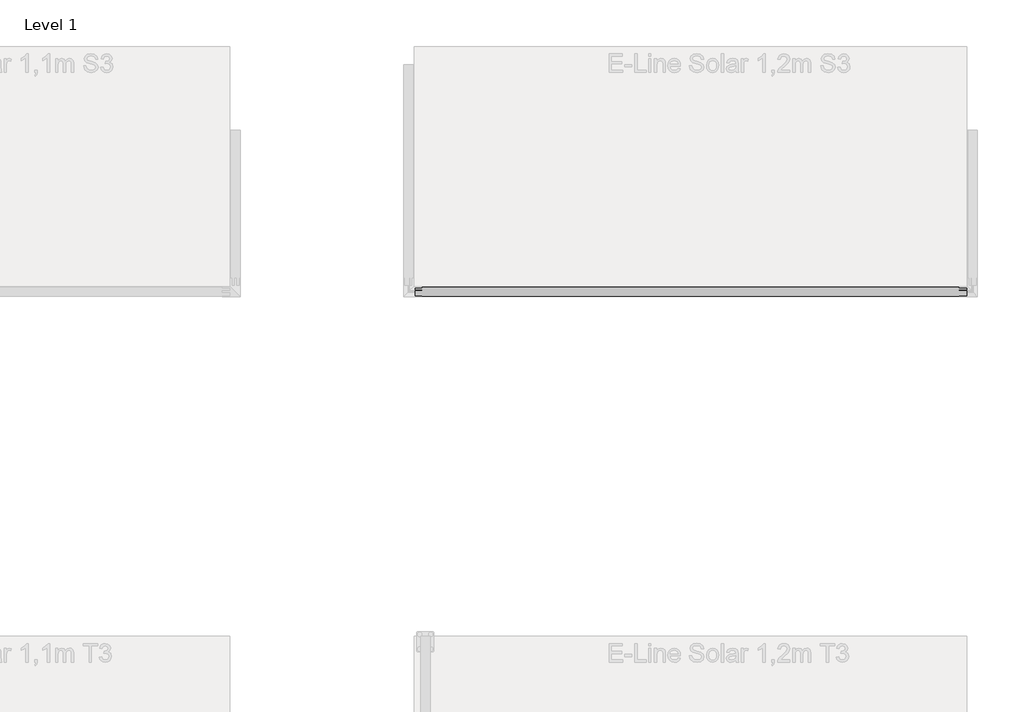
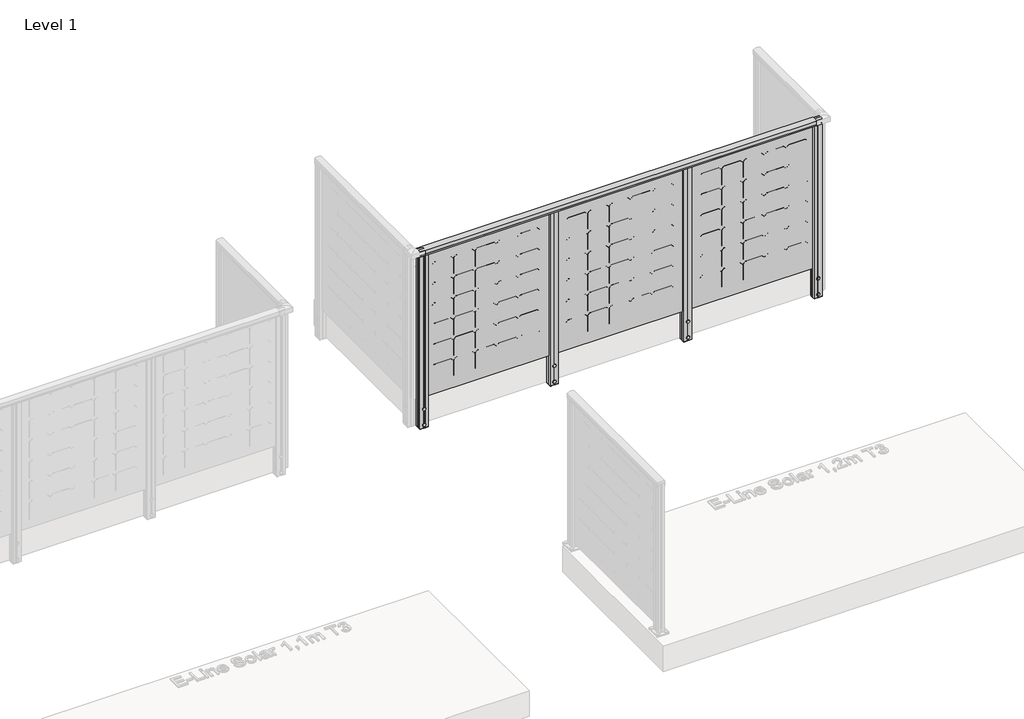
# One storey, part 42 of 66: 1 railing.
"""IFC4 building model written with IfcOpenShell, lengths in millimetres."""

from ifc_helpers import new_model, si_unit, point, frame, frame_2d, origin, place, context, project, spatial, polyline, circle_curve, trimmed, segment, composite_curve, outline, extrude, element, save

model = new_model("IFC4")

# Units and contexts
model_context = context("Model", 3, world=origin())
ifc_project = project(units=[si_unit("LENGTHUNIT", "METRE", prefix="MILLI")], contexts=[model_context])

# Site, building, storey
site = spatial("IfcSite", under=ifc_project)
building = spatial("IfcBuilding", under=site)
storey = spatial("IfcBuildingStorey", under=building, Name="Level 1", Elevation=0.0)

# Railing
placement = place(None, origin())
element("IfcRailing", 1, ObjectType="E-Line Solar 1,2m S3 5 columns of solar elements", at=placement, inside=storey, context=model_context, shape_type="SweptSolid", body=[
    extrude(outline(composite_curve([segment(polyline([(213.4211819, 1194.1390059), (213.4211819, 1167.1990555), (212.8063989, 1166.5842725), (213.4211819, 1165.9694895), (213.4211819, 1157.2498847), (211.6613734, 1157.2498847), (211.6613734, 1180.4998829), (164.6663272, 1180.4998829), (164.6663272, 1157.2498847), (162.8613743, 1157.2498847), (162.8613743, 1165.8194895), (163.4834554, 1166.4415706), (162.9015237, 1167.0235023), (162.9015237, 1194.1342258)]), True, "CONTINUOUS"), segment(trimmed(circle_curve(frame_2d((188.1662216, 1142.6785502)), 57.3235687), [point((162.9015237, 1194.1342258))], [point((213.4211819, 1194.1390059))], False, "CARTESIAN"), True, "CONTINUOUS")], self_intersect=False)), frame((23301.5263105, 0.0, 0.0), z_axis=(1.0, 0.0, 0.0), x_axis=(0.0, 1.0, 0.0)), (0.0, 0.0, 1.0), 2995.0),
    extrude(outline(polyline([(23301.5263105, 184.5015979), (23301.5263105, 193.2615979), (26296.5263105, 193.2615979), (26296.5263105, 184.5015979), (23301.5263105, 184.5015979)])), frame((0.0, 0.0, 28.0), z_axis=(0.0, 0.0, 1.0), x_axis=(1.0, 0.0, 0.0)), (0.0, 0.0, 1.0), 1152.0),
    extrude(outline(polyline([(0.0, 0.0), (-16.036927, 16.036927), (-16.036927, 139.963073), (0.0, 156.0), (123.9261459, 156.0), (139.963073, 139.963073), (139.963073, 16.036927), (123.9261459, 0.0), (0.0, 0.0)])), frame((25552.5263105, 184.3815979, 1049.4156895), z_axis=(7.733303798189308e-12, 1.0, 0.0), x_axis=(0.0, 0.0, -1.0)), (0.0, 0.0, 1.0), 1.0),
    extrude(outline(polyline([(0.0, 0.0), (-16.036927, 16.036927), (-16.036927, 139.963073), (0.0, 156.0), (123.9261459, 156.0), (139.963073, 139.963073), (139.963073, 16.036927), (123.9261459, 0.0), (0.0, 0.0)])), frame((25713.5263105, 184.3815979, 1049.4156895), z_axis=(7.733303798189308e-12, 1.0, 0.0), x_axis=(0.0, 0.0, -1.0)), (0.0, 0.0, 1.0), 1.0),
    extrude(outline(polyline([(0.0, 0.0), (-16.036927, 16.036927), (-16.036927, 139.963073), (0.0, 156.0), (123.9261459, 156.0), (139.963073, 139.963073), (139.963073, 16.036927), (123.9261459, 0.0), (0.0, 0.0)])), frame((26196.5263105, 184.3815979, 1049.4156895), z_axis=(7.733303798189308e-12, 1.0, 0.0), x_axis=(0.0, 0.0, -1.0)), (0.0, 0.0, 1.0), 1.0),
    extrude(outline(polyline([(0.0, 0.0), (-16.036927, 16.036927), (-16.036927, 139.963073), (0.0, 156.0), (123.9261459, 156.0), (139.963073, 139.963073), (139.963073, 16.036927), (123.9261459, 0.0), (0.0, 0.0)])), frame((26035.5263105, 184.3815979, 1049.4156895), z_axis=(7.733303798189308e-12, 1.0, 0.0), x_axis=(0.0, 0.0, -1.0)), (0.0, 0.0, 1.0), 1.0),
    extrude(outline(polyline([(0.0, 0.0), (-16.036927, 16.036927), (-16.036927, 139.963073), (0.0, 156.0), (123.9261459, 156.0), (139.963073, 139.963073), (139.963073, 16.036927), (123.9261459, 0.0), (0.0, 0.0)])), frame((25874.5263105, 184.3815979, 1049.4156895), z_axis=(7.733303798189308e-12, 1.0, 0.0), x_axis=(0.0, 0.0, -1.0)), (0.0, 0.0, 1.0), 1.0),
    extrude(outline(polyline([(0.0, 0.0), (-16.036927, 16.036927), (-16.036927, 139.963073), (0.0, 156.0), (123.9261459, 156.0), (139.963073, 139.963073), (139.963073, 16.036927), (123.9261459, 0.0), (0.0, 0.0)])), frame((25552.5263105, 184.3815979, 888.4156895), z_axis=(7.733303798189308e-12, 1.0, 0.0), x_axis=(0.0, 0.0, -1.0)), (0.0, 0.0, 1.0), 1.0),
    extrude(outline(polyline([(0.0, 0.0), (-16.036927, 16.036927), (-16.036927, 139.963073), (0.0, 156.0), (123.9261459, 156.0), (139.963073, 139.963073), (139.963073, 16.036927), (123.9261459, 0.0), (0.0, 0.0)])), frame((25552.5263105, 184.3815979, 727.4156895), z_axis=(7.733303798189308e-12, 1.0, 0.0), x_axis=(0.0, 0.0, -1.0)), (0.0, 0.0, 1.0), 1.0),
    extrude(outline(polyline([(0.0, 0.0), (-16.036927, 16.036927), (-16.036927, 139.963073), (0.0, 156.0), (123.9261459, 156.0), (139.963073, 139.963073), (139.963073, 16.036927), (123.9261459, 0.0), (0.0, 0.0)])), frame((25552.5263105, 184.3815979, 566.4156895), z_axis=(7.733303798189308e-12, 1.0, 0.0), x_axis=(0.0, 0.0, -1.0)), (0.0, 0.0, 1.0), 1.0),
    extrude(outline(polyline([(0.0, 0.0), (-16.036927, 16.036927), (-16.036927, 139.963073), (0.0, 156.0), (123.9261459, 156.0), (139.963073, 139.963073), (139.963073, 16.036927), (123.9261459, 0.0), (0.0, 0.0)])), frame((25552.5263105, 184.3815979, 405.4156895), z_axis=(7.733303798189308e-12, 1.0, 0.0), x_axis=(0.0, 0.0, -1.0)), (0.0, 0.0, 1.0), 1.0),
    extrude(outline(polyline([(0.0, 0.0), (-16.036927, 16.036927), (-16.036927, 139.963073), (0.0, 156.0), (123.9261459, 156.0), (139.963073, 139.963073), (139.963073, 16.036927), (123.9261459, 0.0), (0.0, 0.0)])), frame((25552.5263105, 184.3815979, 244.4156895), z_axis=(7.733303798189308e-12, 1.0, 0.0), x_axis=(0.0, 0.0, -1.0)), (0.0, 0.0, 1.0), 1.0),
    extrude(outline(polyline([(0.0, 0.0), (-16.036927, 16.036927), (-16.036927, 139.963073), (0.0, 156.0), (123.9261459, 156.0), (139.963073, 139.963073), (139.963073, 16.036927), (123.9261459, 0.0), (0.0, 0.0)])), frame((25713.5263105, 184.3815979, 888.4156895), z_axis=(7.733303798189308e-12, 1.0, 0.0), x_axis=(0.0, 0.0, -1.0)), (0.0, 0.0, 1.0), 1.0),
    extrude(outline(polyline([(0.0, 0.0), (-16.036927, 16.036927), (-16.036927, 139.963073), (0.0, 156.0), (123.9261459, 156.0), (139.963073, 139.963073), (139.963073, 16.036927), (123.9261459, 0.0), (0.0, 0.0)])), frame((25713.5263105, 184.3815979, 727.4156895), z_axis=(7.733303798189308e-12, 1.0, 0.0), x_axis=(0.0, 0.0, -1.0)), (0.0, 0.0, 1.0), 1.0),
    extrude(outline(polyline([(0.0, 0.0), (-16.036927, 16.036927), (-16.036927, 139.963073), (0.0, 156.0), (123.9261459, 156.0), (139.963073, 139.963073), (139.963073, 16.036927), (123.9261459, 0.0), (0.0, 0.0)])), frame((25713.5263105, 184.3815979, 566.4156895), z_axis=(7.733303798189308e-12, 1.0, 0.0), x_axis=(0.0, 0.0, -1.0)), (0.0, 0.0, 1.0), 1.0),
    extrude(outline(polyline([(0.0, 0.0), (-16.036927, 16.036927), (-16.036927, 139.963073), (0.0, 156.0), (123.9261459, 156.0), (139.963073, 139.963073), (139.963073, 16.036927), (123.9261459, 0.0), (0.0, 0.0)])), frame((25713.5263105, 184.3815979, 405.4156895), z_axis=(7.733303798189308e-12, 1.0, 0.0), x_axis=(0.0, 0.0, -1.0)), (0.0, 0.0, 1.0), 1.0),
    extrude(outline(polyline([(0.0, 0.0), (-16.036927, 16.036927), (-16.036927, 139.963073), (0.0, 156.0), (123.9261459, 156.0), (139.963073, 139.963073), (139.963073, 16.036927), (123.9261459, 0.0), (0.0, 0.0)])), frame((25713.5263105, 184.3815979, 244.4156895), z_axis=(7.733303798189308e-12, 1.0, 0.0), x_axis=(0.0, 0.0, -1.0)), (0.0, 0.0, 1.0), 1.0),
    extrude(outline(polyline([(0.0, 0.0), (-16.036927, 16.036927), (-16.036927, 139.963073), (0.0, 156.0), (123.9261459, 156.0), (139.963073, 139.963073), (139.963073, 16.036927), (123.9261459, 0.0), (0.0, 0.0)])), frame((26196.5263105, 184.3815979, 888.4156895), z_axis=(7.733303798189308e-12, 1.0, 0.0), x_axis=(0.0, 0.0, -1.0)), (0.0, 0.0, 1.0), 1.0),
    extrude(outline(polyline([(0.0, 0.0), (-16.036927, 16.036927), (-16.036927, 139.963073), (0.0, 156.0), (123.9261459, 156.0), (139.963073, 139.963073), (139.963073, 16.036927), (123.9261459, 0.0), (0.0, 0.0)])), frame((26196.5263105, 184.3815979, 727.4156895), z_axis=(7.733303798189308e-12, 1.0, 0.0), x_axis=(0.0, 0.0, -1.0)), (0.0, 0.0, 1.0), 1.0),
    extrude(outline(polyline([(0.0, 0.0), (-16.036927, 16.036927), (-16.036927, 139.963073), (0.0, 156.0), (123.9261459, 156.0), (139.963073, 139.963073), (139.963073, 16.036927), (123.9261459, 0.0), (0.0, 0.0)])), frame((26196.5263105, 184.3815979, 566.4156895), z_axis=(7.733303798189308e-12, 1.0, 0.0), x_axis=(0.0, 0.0, -1.0)), (0.0, 0.0, 1.0), 1.0),
    extrude(outline(polyline([(0.0, 0.0), (-16.036927, 16.036927), (-16.036927, 139.963073), (0.0, 156.0), (123.9261459, 156.0), (139.963073, 139.963073), (139.963073, 16.036927), (123.9261459, 0.0), (0.0, 0.0)])), frame((26196.5263105, 184.3815979, 405.4156895), z_axis=(7.733303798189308e-12, 1.0, 0.0), x_axis=(0.0, 0.0, -1.0)), (0.0, 0.0, 1.0), 1.0),
    extrude(outline(polyline([(0.0, 0.0), (-16.036927, 16.036927), (-16.036927, 139.963073), (0.0, 156.0), (123.9261459, 156.0), (139.963073, 139.963073), (139.963073, 16.036927), (123.9261459, 0.0), (0.0, 0.0)])), frame((26196.5263105, 184.3815979, 244.4156895), z_axis=(7.733303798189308e-12, 1.0, 0.0), x_axis=(0.0, 0.0, -1.0)), (0.0, 0.0, 1.0), 1.0),
    extrude(outline(polyline([(0.0, 0.0), (-16.036927, 16.036927), (-16.036927, 139.963073), (0.0, 156.0), (123.9261459, 156.0), (139.963073, 139.963073), (139.963073, 16.036927), (123.9261459, 0.0), (0.0, 0.0)])), frame((26035.5263105, 184.3815979, 888.4156895), z_axis=(7.733303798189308e-12, 1.0, 0.0), x_axis=(0.0, 0.0, -1.0)), (0.0, 0.0, 1.0), 1.0),
    extrude(outline(polyline([(0.0, 0.0), (-16.036927, 16.036927), (-16.036927, 139.963073), (0.0, 156.0), (123.9261459, 156.0), (139.963073, 139.963073), (139.963073, 16.036927), (123.9261459, 0.0), (0.0, 0.0)])), frame((26035.5263105, 184.3815979, 727.4156895), z_axis=(7.733303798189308e-12, 1.0, 0.0), x_axis=(0.0, 0.0, -1.0)), (0.0, 0.0, 1.0), 1.0),
    extrude(outline(polyline([(0.0, 0.0), (-16.036927, 16.036927), (-16.036927, 139.963073), (0.0, 156.0), (123.9261459, 156.0), (139.963073, 139.963073), (139.963073, 16.036927), (123.9261459, 0.0), (0.0, 0.0)])), frame((26035.5263105, 184.3815979, 566.4156895), z_axis=(7.733303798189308e-12, 1.0, 0.0), x_axis=(0.0, 0.0, -1.0)), (0.0, 0.0, 1.0), 1.0),
    extrude(outline(polyline([(0.0, 0.0), (-16.036927, 16.036927), (-16.036927, 139.963073), (0.0, 156.0), (123.9261459, 156.0), (139.963073, 139.963073), (139.963073, 16.036927), (123.9261459, 0.0), (0.0, 0.0)])), frame((26035.5263105, 184.3815979, 405.4156895), z_axis=(7.733303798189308e-12, 1.0, 0.0), x_axis=(0.0, 0.0, -1.0)), (0.0, 0.0, 1.0), 1.0),
    extrude(outline(polyline([(0.0, 0.0), (-16.036927, 16.036927), (-16.036927, 139.963073), (0.0, 156.0), (123.9261459, 156.0), (139.963073, 139.963073), (139.963073, 16.036927), (123.9261459, 0.0), (0.0, 0.0)])), frame((26035.5263105, 184.3815979, 244.4156895), z_axis=(7.733303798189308e-12, 1.0, 0.0), x_axis=(0.0, 0.0, -1.0)), (0.0, 0.0, 1.0), 1.0),
    extrude(outline(polyline([(0.0, 0.0), (-16.036927, 16.036927), (-16.036927, 139.963073), (0.0, 156.0), (123.9261459, 156.0), (139.963073, 139.963073), (139.963073, 16.036927), (123.9261459, 0.0), (0.0, 0.0)])), frame((25874.5263105, 184.3815979, 888.4156895), z_axis=(7.733303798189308e-12, 1.0, 0.0), x_axis=(0.0, 0.0, -1.0)), (0.0, 0.0, 1.0), 1.0),
    extrude(outline(polyline([(0.0, 0.0), (-16.036927, 16.036927), (-16.036927, 139.963073), (0.0, 156.0), (123.9261459, 156.0), (139.963073, 139.963073), (139.963073, 16.036927), (123.9261459, 0.0), (0.0, 0.0)])), frame((25874.5263105, 184.3815979, 727.4156895), z_axis=(7.733303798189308e-12, 1.0, 0.0), x_axis=(0.0, 0.0, -1.0)), (0.0, 0.0, 1.0), 1.0),
    extrude(outline(polyline([(0.0, 0.0), (-16.036927, 16.036927), (-16.036927, 139.963073), (0.0, 156.0), (123.9261459, 156.0), (139.963073, 139.963073), (139.963073, 16.036927), (123.9261459, 0.0), (0.0, 0.0)])), frame((25874.5263105, 184.3815979, 566.4156895), z_axis=(7.733303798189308e-12, 1.0, 0.0), x_axis=(0.0, 0.0, -1.0)), (0.0, 0.0, 1.0), 1.0),
    extrude(outline(polyline([(0.0, 0.0), (-16.036927, 16.036927), (-16.036927, 139.963073), (0.0, 156.0), (123.9261459, 156.0), (139.963073, 139.963073), (139.963073, 16.036927), (123.9261459, 0.0), (0.0, 0.0)])), frame((25874.5263105, 184.3815979, 405.4156895), z_axis=(7.733303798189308e-12, 1.0, 0.0), x_axis=(0.0, 0.0, -1.0)), (0.0, 0.0, 1.0), 1.0),
    extrude(outline(polyline([(0.0, 0.0), (-16.036927, 16.036927), (-16.036927, 139.963073), (0.0, 156.0), (123.9261459, 156.0), (139.963073, 139.963073), (139.963073, 16.036927), (123.9261459, 0.0), (0.0, 0.0)])), frame((25874.5263105, 184.3815979, 244.4156895), z_axis=(7.733303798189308e-12, 1.0, 0.0), x_axis=(0.0, 0.0, -1.0)), (0.0, 0.0, 1.0), 1.0),
    extrude(outline(polyline([(0.0, 0.0), (-16.036927, 16.036927), (-16.036927, 139.963073), (0.0, 156.0), (123.9261459, 156.0), (139.963073, 139.963073), (139.963073, 16.036927), (123.9261459, 0.0), (0.0, 0.0)])), frame((24555.0263105, 184.3815979, 1049.4156895), z_axis=(7.733303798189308e-12, 1.0, 0.0), x_axis=(0.0, 0.0, -1.0)), (0.0, 0.0, 1.0), 1.0),
    extrude(outline(polyline([(0.0, 0.0), (-16.036927, 16.036927), (-16.036927, 139.963073), (0.0, 156.0), (123.9261459, 156.0), (139.963073, 139.963073), (139.963073, 16.036927), (123.9261459, 0.0), (0.0, 0.0)])), frame((24716.0263105, 184.3815979, 1049.4156895), z_axis=(7.733303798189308e-12, 1.0, 0.0), x_axis=(0.0, 0.0, -1.0)), (0.0, 0.0, 1.0), 1.0),
    extrude(outline(polyline([(0.0, 0.0), (-16.036927, 16.036927), (-16.036927, 139.963073), (0.0, 156.0), (123.9261459, 156.0), (139.963073, 139.963073), (139.963073, 16.036927), (123.9261459, 0.0), (0.0, 0.0)])), frame((25199.0263105, 184.3815979, 1049.4156895), z_axis=(7.733303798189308e-12, 1.0, 0.0), x_axis=(0.0, 0.0, -1.0)), (0.0, 0.0, 1.0), 1.0),
    extrude(outline(polyline([(0.0, 0.0), (-16.036927, 16.036927), (-16.036927, 139.963073), (0.0, 156.0), (123.9261459, 156.0), (139.963073, 139.963073), (139.963073, 16.036927), (123.9261459, 0.0), (0.0, 0.0)])), frame((25038.0263105, 184.3815979, 1049.4156895), z_axis=(7.733303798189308e-12, 1.0, 0.0), x_axis=(0.0, 0.0, -1.0)), (0.0, 0.0, 1.0), 1.0),
    extrude(outline(polyline([(0.0, 0.0), (-16.036927, 16.036927), (-16.036927, 139.963073), (0.0, 156.0), (123.9261459, 156.0), (139.963073, 139.963073), (139.963073, 16.036927), (123.9261459, 0.0), (0.0, 0.0)])), frame((24877.0263105, 184.3815979, 1049.4156895), z_axis=(7.733303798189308e-12, 1.0, 0.0), x_axis=(0.0, 0.0, -1.0)), (0.0, 0.0, 1.0), 1.0),
    extrude(outline(polyline([(0.0, 0.0), (-16.036927, 16.036927), (-16.036927, 139.963073), (0.0, 156.0), (123.9261459, 156.0), (139.963073, 139.963073), (139.963073, 16.036927), (123.9261459, 0.0), (0.0, 0.0)])), frame((24555.0263105, 184.3815979, 888.4156895), z_axis=(7.733303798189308e-12, 1.0, 0.0), x_axis=(0.0, 0.0, -1.0)), (0.0, 0.0, 1.0), 1.0),
    extrude(outline(polyline([(0.0, 0.0), (-16.036927, 16.036927), (-16.036927, 139.963073), (0.0, 156.0), (123.9261459, 156.0), (139.963073, 139.963073), (139.963073, 16.036927), (123.9261459, 0.0), (0.0, 0.0)])), frame((24555.0263105, 184.3815979, 727.4156895), z_axis=(7.733303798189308e-12, 1.0, 0.0), x_axis=(0.0, 0.0, -1.0)), (0.0, 0.0, 1.0), 1.0),
    extrude(outline(polyline([(0.0, 0.0), (-16.036927, 16.036927), (-16.036927, 139.963073), (0.0, 156.0), (123.9261459, 156.0), (139.963073, 139.963073), (139.963073, 16.036927), (123.9261459, 0.0), (0.0, 0.0)])), frame((24555.0263105, 184.3815979, 566.4156895), z_axis=(7.733303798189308e-12, 1.0, 0.0), x_axis=(0.0, 0.0, -1.0)), (0.0, 0.0, 1.0), 1.0),
    extrude(outline(polyline([(0.0, 0.0), (-16.036927, 16.036927), (-16.036927, 139.963073), (0.0, 156.0), (123.9261459, 156.0), (139.963073, 139.963073), (139.963073, 16.036927), (123.9261459, 0.0), (0.0, 0.0)])), frame((24555.0263105, 184.3815979, 405.4156895), z_axis=(7.733303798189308e-12, 1.0, 0.0), x_axis=(0.0, 0.0, -1.0)), (0.0, 0.0, 1.0), 1.0),
    extrude(outline(polyline([(0.0, 0.0), (-16.036927, 16.036927), (-16.036927, 139.963073), (0.0, 156.0), (123.9261459, 156.0), (139.963073, 139.963073), (139.963073, 16.036927), (123.9261459, 0.0), (0.0, 0.0)])), frame((24555.0263105, 184.3815979, 244.4156895), z_axis=(7.733303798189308e-12, 1.0, 0.0), x_axis=(0.0, 0.0, -1.0)), (0.0, 0.0, 1.0), 1.0),
    extrude(outline(polyline([(0.0, 0.0), (-16.036927, 16.036927), (-16.036927, 139.963073), (0.0, 156.0), (123.9261459, 156.0), (139.963073, 139.963073), (139.963073, 16.036927), (123.9261459, 0.0), (0.0, 0.0)])), frame((24716.0263105, 184.3815979, 888.4156895), z_axis=(7.733303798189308e-12, 1.0, 0.0), x_axis=(0.0, 0.0, -1.0)), (0.0, 0.0, 1.0), 1.0),
    extrude(outline(polyline([(0.0, 0.0), (-16.036927, 16.036927), (-16.036927, 139.963073), (0.0, 156.0), (123.9261459, 156.0), (139.963073, 139.963073), (139.963073, 16.036927), (123.9261459, 0.0), (0.0, 0.0)])), frame((24716.0263105, 184.3815979, 727.4156895), z_axis=(7.733303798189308e-12, 1.0, 0.0), x_axis=(0.0, 0.0, -1.0)), (0.0, 0.0, 1.0), 1.0),
    extrude(outline(polyline([(0.0, 0.0), (-16.036927, 16.036927), (-16.036927, 139.963073), (0.0, 156.0), (123.9261459, 156.0), (139.963073, 139.963073), (139.963073, 16.036927), (123.9261459, 0.0), (0.0, 0.0)])), frame((24716.0263105, 184.3815979, 566.4156895), z_axis=(7.733303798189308e-12, 1.0, 0.0), x_axis=(0.0, 0.0, -1.0)), (0.0, 0.0, 1.0), 1.0),
    extrude(outline(polyline([(0.0, 0.0), (-16.036927, 16.036927), (-16.036927, 139.963073), (0.0, 156.0), (123.9261459, 156.0), (139.963073, 139.963073), (139.963073, 16.036927), (123.9261459, 0.0), (0.0, 0.0)])), frame((24716.0263105, 184.3815979, 405.4156895), z_axis=(7.733303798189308e-12, 1.0, 0.0), x_axis=(0.0, 0.0, -1.0)), (0.0, 0.0, 1.0), 1.0),
    extrude(outline(polyline([(0.0, 0.0), (-16.036927, 16.036927), (-16.036927, 139.963073), (0.0, 156.0), (123.9261459, 156.0), (139.963073, 139.963073), (139.963073, 16.036927), (123.9261459, 0.0), (0.0, 0.0)])), frame((24716.0263105, 184.3815979, 244.4156895), z_axis=(7.733303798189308e-12, 1.0, 0.0), x_axis=(0.0, 0.0, -1.0)), (0.0, 0.0, 1.0), 1.0),
    extrude(outline(polyline([(0.0, 0.0), (-16.036927, 16.036927), (-16.036927, 139.963073), (0.0, 156.0), (123.9261459, 156.0), (139.963073, 139.963073), (139.963073, 16.036927), (123.9261459, 0.0), (0.0, 0.0)])), frame((25199.0263105, 184.3815979, 888.4156895), z_axis=(7.733303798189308e-12, 1.0, 0.0), x_axis=(0.0, 0.0, -1.0)), (0.0, 0.0, 1.0), 1.0),
    extrude(outline(polyline([(0.0, 0.0), (-16.036927, 16.036927), (-16.036927, 139.963073), (0.0, 156.0), (123.9261459, 156.0), (139.963073, 139.963073), (139.963073, 16.036927), (123.9261459, 0.0), (0.0, 0.0)])), frame((25199.0263105, 184.3815979, 727.4156895), z_axis=(7.733303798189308e-12, 1.0, 0.0), x_axis=(0.0, 0.0, -1.0)), (0.0, 0.0, 1.0), 1.0),
    extrude(outline(polyline([(0.0, 0.0), (-16.036927, 16.036927), (-16.036927, 139.963073), (0.0, 156.0), (123.9261459, 156.0), (139.963073, 139.963073), (139.963073, 16.036927), (123.9261459, 0.0), (0.0, 0.0)])), frame((25199.0263105, 184.3815979, 566.4156895), z_axis=(7.733303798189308e-12, 1.0, 0.0), x_axis=(0.0, 0.0, -1.0)), (0.0, 0.0, 1.0), 1.0),
    extrude(outline(polyline([(0.0, 0.0), (-16.036927, 16.036927), (-16.036927, 139.963073), (0.0, 156.0), (123.9261459, 156.0), (139.963073, 139.963073), (139.963073, 16.036927), (123.9261459, 0.0), (0.0, 0.0)])), frame((25199.0263105, 184.3815979, 405.4156895), z_axis=(7.733303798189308e-12, 1.0, 0.0), x_axis=(0.0, 0.0, -1.0)), (0.0, 0.0, 1.0), 1.0),
    extrude(outline(polyline([(0.0, 0.0), (-16.036927, 16.036927), (-16.036927, 139.963073), (0.0, 156.0), (123.9261459, 156.0), (139.963073, 139.963073), (139.963073, 16.036927), (123.9261459, 0.0), (0.0, 0.0)])), frame((25199.0263105, 184.3815979, 244.4156895), z_axis=(7.733303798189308e-12, 1.0, 0.0), x_axis=(0.0, 0.0, -1.0)), (0.0, 0.0, 1.0), 1.0),
    extrude(outline(polyline([(0.0, 0.0), (-16.036927, 16.036927), (-16.036927, 139.963073), (0.0, 156.0), (123.9261459, 156.0), (139.963073, 139.963073), (139.963073, 16.036927), (123.9261459, 0.0), (0.0, 0.0)])), frame((25038.0263105, 184.3815979, 888.4156895), z_axis=(7.733303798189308e-12, 1.0, 0.0), x_axis=(0.0, 0.0, -1.0)), (0.0, 0.0, 1.0), 1.0),
    extrude(outline(polyline([(0.0, 0.0), (-16.036927, 16.036927), (-16.036927, 139.963073), (0.0, 156.0), (123.9261459, 156.0), (139.963073, 139.963073), (139.963073, 16.036927), (123.9261459, 0.0), (0.0, 0.0)])), frame((25038.0263105, 184.3815979, 727.4156895), z_axis=(7.733303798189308e-12, 1.0, 0.0), x_axis=(0.0, 0.0, -1.0)), (0.0, 0.0, 1.0), 1.0),
    extrude(outline(polyline([(0.0, 0.0), (-16.036927, 16.036927), (-16.036927, 139.963073), (0.0, 156.0), (123.9261459, 156.0), (139.963073, 139.963073), (139.963073, 16.036927), (123.9261459, 0.0), (0.0, 0.0)])), frame((25038.0263105, 184.3815979, 566.4156895), z_axis=(7.733303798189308e-12, 1.0, 0.0), x_axis=(0.0, 0.0, -1.0)), (0.0, 0.0, 1.0), 1.0),
    extrude(outline(polyline([(0.0, 0.0), (-16.036927, 16.036927), (-16.036927, 139.963073), (0.0, 156.0), (123.9261459, 156.0), (139.963073, 139.963073), (139.963073, 16.036927), (123.9261459, 0.0), (0.0, 0.0)])), frame((25038.0263105, 184.3815979, 405.4156895), z_axis=(7.733303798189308e-12, 1.0, 0.0), x_axis=(0.0, 0.0, -1.0)), (0.0, 0.0, 1.0), 1.0),
    extrude(outline(polyline([(0.0, 0.0), (-16.036927, 16.036927), (-16.036927, 139.963073), (0.0, 156.0), (123.9261459, 156.0), (139.963073, 139.963073), (139.963073, 16.036927), (123.9261459, 0.0), (0.0, 0.0)])), frame((25038.0263105, 184.3815979, 244.4156895), z_axis=(7.733303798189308e-12, 1.0, 0.0), x_axis=(0.0, 0.0, -1.0)), (0.0, 0.0, 1.0), 1.0),
    extrude(outline(polyline([(0.0, 0.0), (-16.036927, 16.036927), (-16.036927, 139.963073), (0.0, 156.0), (123.9261459, 156.0), (139.963073, 139.963073), (139.963073, 16.036927), (123.9261459, 0.0), (0.0, 0.0)])), frame((24877.0263105, 184.3815979, 888.4156895), z_axis=(7.733303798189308e-12, 1.0, 0.0), x_axis=(0.0, 0.0, -1.0)), (0.0, 0.0, 1.0), 1.0),
    extrude(outline(polyline([(0.0, 0.0), (-16.036927, 16.036927), (-16.036927, 139.963073), (0.0, 156.0), (123.9261459, 156.0), (139.963073, 139.963073), (139.963073, 16.036927), (123.9261459, 0.0), (0.0, 0.0)])), frame((24877.0263105, 184.3815979, 727.4156895), z_axis=(7.733303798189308e-12, 1.0, 0.0), x_axis=(0.0, 0.0, -1.0)), (0.0, 0.0, 1.0), 1.0),
    extrude(outline(polyline([(0.0, 0.0), (-16.036927, 16.036927), (-16.036927, 139.963073), (0.0, 156.0), (123.9261459, 156.0), (139.963073, 139.963073), (139.963073, 16.036927), (123.9261459, 0.0), (0.0, 0.0)])), frame((24877.0263105, 184.3815979, 566.4156895), z_axis=(7.733303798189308e-12, 1.0, 0.0), x_axis=(0.0, 0.0, -1.0)), (0.0, 0.0, 1.0), 1.0),
    extrude(outline(polyline([(0.0, 0.0), (-16.036927, 16.036927), (-16.036927, 139.963073), (0.0, 156.0), (123.9261459, 156.0), (139.963073, 139.963073), (139.963073, 16.036927), (123.9261459, 0.0), (0.0, 0.0)])), frame((24877.0263105, 184.3815979, 405.4156895), z_axis=(7.733303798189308e-12, 1.0, 0.0), x_axis=(0.0, 0.0, -1.0)), (0.0, 0.0, 1.0), 1.0),
    extrude(outline(polyline([(0.0, 0.0), (-16.036927, 16.036927), (-16.036927, 139.963073), (0.0, 156.0), (123.9261459, 156.0), (139.963073, 139.963073), (139.963073, 16.036927), (123.9261459, 0.0), (0.0, 0.0)])), frame((24877.0263105, 184.3815979, 244.4156895), z_axis=(7.733303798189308e-12, 1.0, 0.0), x_axis=(0.0, 0.0, -1.0)), (0.0, 0.0, 1.0), 1.0),
    extrude(outline(polyline([(0.0, 0.0), (-16.036927, 16.036927), (-16.036927, 139.963073), (0.0, 156.0), (123.9261459, 156.0), (139.963073, 139.963073), (139.963073, 16.036927), (123.9261459, 0.0), (0.0, 0.0)])), frame((23557.5263105, 184.3815979, 1049.4156895), z_axis=(7.733303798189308e-12, 1.0, 0.0), x_axis=(0.0, 0.0, -1.0)), (0.0, 0.0, 1.0), 1.0),
    extrude(outline(polyline([(0.0, 0.0), (-16.036927, 16.036927), (-16.036927, 139.963073), (0.0, 156.0), (123.9261459, 156.0), (139.963073, 139.963073), (139.963073, 16.036927), (123.9261459, 0.0), (0.0, 0.0)])), frame((23718.5263105, 184.3815979, 1049.4156895), z_axis=(7.733303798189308e-12, 1.0, 0.0), x_axis=(0.0, 0.0, -1.0)), (0.0, 0.0, 1.0), 1.0),
    extrude(outline(polyline([(0.0, 0.0), (-16.036927, 16.036927), (-16.036927, 139.963073), (0.0, 156.0), (123.9261459, 156.0), (139.963073, 139.963073), (139.963073, 16.036927), (123.9261459, 0.0), (0.0, 0.0)])), frame((24201.5263105, 184.3815979, 1049.4156895), z_axis=(7.733303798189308e-12, 1.0, 0.0), x_axis=(0.0, 0.0, -1.0)), (0.0, 0.0, 1.0), 1.0),
    extrude(outline(polyline([(0.0, 0.0), (-16.036927, 16.036927), (-16.036927, 139.963073), (0.0, 156.0), (123.9261459, 156.0), (139.963073, 139.963073), (139.963073, 16.036927), (123.9261459, 0.0), (0.0, 0.0)])), frame((24040.5263105, 184.3815979, 1049.4156895), z_axis=(7.733303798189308e-12, 1.0, 0.0), x_axis=(0.0, 0.0, -1.0)), (0.0, 0.0, 1.0), 1.0),
    extrude(outline(polyline([(0.0, 0.0), (-16.036927, 16.036927), (-16.036927, 139.963073), (0.0, 156.0), (123.9261459, 156.0), (139.963073, 139.963073), (139.963073, 16.036927), (123.9261459, 0.0), (0.0, 0.0)])), frame((23879.5263105, 184.3815979, 1049.4156895), z_axis=(7.733303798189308e-12, 1.0, 0.0), x_axis=(0.0, 0.0, -1.0)), (0.0, 0.0, 1.0), 1.0),
    extrude(outline(polyline([(0.0, 0.0), (-16.036927, 16.036927), (-16.036927, 139.963073), (0.0, 156.0), (123.9261459, 156.0), (139.963073, 139.963073), (139.963073, 16.036927), (123.9261459, 0.0), (0.0, 0.0)])), frame((23557.5263105, 184.3815979, 888.4156895), z_axis=(7.733303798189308e-12, 1.0, 0.0), x_axis=(0.0, 0.0, -1.0)), (0.0, 0.0, 1.0), 1.0),
    extrude(outline(polyline([(0.0, 0.0), (-16.036927, 16.036927), (-16.036927, 139.963073), (0.0, 156.0), (123.9261459, 156.0), (139.963073, 139.963073), (139.963073, 16.036927), (123.9261459, 0.0), (0.0, 0.0)])), frame((23557.5263105, 184.3815979, 727.4156895), z_axis=(7.733303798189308e-12, 1.0, 0.0), x_axis=(0.0, 0.0, -1.0)), (0.0, 0.0, 1.0), 1.0),
    extrude(outline(polyline([(0.0, 0.0), (-16.036927, 16.036927), (-16.036927, 139.963073), (0.0, 156.0), (123.9261459, 156.0), (139.963073, 139.963073), (139.963073, 16.036927), (123.9261459, 0.0), (0.0, 0.0)])), frame((23557.5263105, 184.3815979, 566.4156895), z_axis=(7.733303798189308e-12, 1.0, 0.0), x_axis=(0.0, 0.0, -1.0)), (0.0, 0.0, 1.0), 1.0),
    extrude(outline(polyline([(0.0, 0.0), (-16.036927, 16.036927), (-16.036927, 139.963073), (0.0, 156.0), (123.9261459, 156.0), (139.963073, 139.963073), (139.963073, 16.036927), (123.9261459, 0.0), (0.0, 0.0)])), frame((23557.5263105, 184.3815979, 405.4156895), z_axis=(7.733303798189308e-12, 1.0, 0.0), x_axis=(0.0, 0.0, -1.0)), (0.0, 0.0, 1.0), 1.0),
    extrude(outline(polyline([(0.0, 0.0), (-16.036927, 16.036927), (-16.036927, 139.963073), (0.0, 156.0), (123.9261459, 156.0), (139.963073, 139.963073), (139.963073, 16.036927), (123.9261459, 0.0), (0.0, 0.0)])), frame((23557.5263105, 184.3815979, 244.4156895), z_axis=(7.733303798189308e-12, 1.0, 0.0), x_axis=(0.0, 0.0, -1.0)), (0.0, 0.0, 1.0), 1.0),
    extrude(outline(polyline([(0.0, 0.0), (-16.036927, 16.036927), (-16.036927, 139.963073), (0.0, 156.0), (123.9261459, 156.0), (139.963073, 139.963073), (139.963073, 16.036927), (123.9261459, 0.0), (0.0, 0.0)])), frame((23718.5263105, 184.3815979, 888.4156895), z_axis=(7.733303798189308e-12, 1.0, 0.0), x_axis=(0.0, 0.0, -1.0)), (0.0, 0.0, 1.0), 1.0),
    extrude(outline(polyline([(0.0, 0.0), (-16.036927, 16.036927), (-16.036927, 139.963073), (0.0, 156.0), (123.9261459, 156.0), (139.963073, 139.963073), (139.963073, 16.036927), (123.9261459, 0.0), (0.0, 0.0)])), frame((23718.5263105, 184.3815979, 727.4156895), z_axis=(7.733303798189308e-12, 1.0, 0.0), x_axis=(0.0, 0.0, -1.0)), (0.0, 0.0, 1.0), 1.0),
    extrude(outline(polyline([(0.0, 0.0), (-16.036927, 16.036927), (-16.036927, 139.963073), (0.0, 156.0), (123.9261459, 156.0), (139.963073, 139.963073), (139.963073, 16.036927), (123.9261459, 0.0), (0.0, 0.0)])), frame((23718.5263105, 184.3815979, 566.4156895), z_axis=(7.733303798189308e-12, 1.0, 0.0), x_axis=(0.0, 0.0, -1.0)), (0.0, 0.0, 1.0), 1.0),
    extrude(outline(polyline([(0.0, 0.0), (-16.036927, 16.036927), (-16.036927, 139.963073), (0.0, 156.0), (123.9261459, 156.0), (139.963073, 139.963073), (139.963073, 16.036927), (123.9261459, 0.0), (0.0, 0.0)])), frame((23718.5263105, 184.3815979, 405.4156895), z_axis=(7.733303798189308e-12, 1.0, 0.0), x_axis=(0.0, 0.0, -1.0)), (0.0, 0.0, 1.0), 1.0),
    extrude(outline(polyline([(0.0, 0.0), (-16.036927, 16.036927), (-16.036927, 139.963073), (0.0, 156.0), (123.9261459, 156.0), (139.963073, 139.963073), (139.963073, 16.036927), (123.9261459, 0.0), (0.0, 0.0)])), frame((23718.5263105, 184.3815979, 244.4156895), z_axis=(7.733303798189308e-12, 1.0, 0.0), x_axis=(0.0, 0.0, -1.0)), (0.0, 0.0, 1.0), 1.0),
    extrude(outline(polyline([(0.0, 0.0), (-16.036927, 16.036927), (-16.036927, 139.963073), (0.0, 156.0), (123.9261459, 156.0), (139.963073, 139.963073), (139.963073, 16.036927), (123.9261459, 0.0), (0.0, 0.0)])), frame((24201.5263105, 184.3815979, 888.4156895), z_axis=(7.733303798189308e-12, 1.0, 0.0), x_axis=(0.0, 0.0, -1.0)), (0.0, 0.0, 1.0), 1.0),
    extrude(outline(polyline([(0.0, 0.0), (-16.036927, 16.036927), (-16.036927, 139.963073), (0.0, 156.0), (123.9261459, 156.0), (139.963073, 139.963073), (139.963073, 16.036927), (123.9261459, 0.0), (0.0, 0.0)])), frame((24201.5263105, 184.3815979, 727.4156895), z_axis=(7.733303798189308e-12, 1.0, 0.0), x_axis=(0.0, 0.0, -1.0)), (0.0, 0.0, 1.0), 1.0),
    extrude(outline(polyline([(0.0, 0.0), (-16.036927, 16.036927), (-16.036927, 139.963073), (0.0, 156.0), (123.9261459, 156.0), (139.963073, 139.963073), (139.963073, 16.036927), (123.9261459, 0.0), (0.0, 0.0)])), frame((24201.5263105, 184.3815979, 566.4156895), z_axis=(7.733303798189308e-12, 1.0, 0.0), x_axis=(0.0, 0.0, -1.0)), (0.0, 0.0, 1.0), 1.0),
    extrude(outline(polyline([(0.0, 0.0), (-16.036927, 16.036927), (-16.036927, 139.963073), (0.0, 156.0), (123.9261459, 156.0), (139.963073, 139.963073), (139.963073, 16.036927), (123.9261459, 0.0), (0.0, 0.0)])), frame((24201.5263105, 184.3815979, 405.4156895), z_axis=(7.733303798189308e-12, 1.0, 0.0), x_axis=(0.0, 0.0, -1.0)), (0.0, 0.0, 1.0), 1.0),
    extrude(outline(polyline([(0.0, 0.0), (-16.036927, 16.036927), (-16.036927, 139.963073), (0.0, 156.0), (123.9261459, 156.0), (139.963073, 139.963073), (139.963073, 16.036927), (123.9261459, 0.0), (0.0, 0.0)])), frame((24201.5263105, 184.3815979, 244.4156895), z_axis=(7.733303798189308e-12, 1.0, 0.0), x_axis=(0.0, 0.0, -1.0)), (0.0, 0.0, 1.0), 1.0),
    extrude(outline(polyline([(0.0, 0.0), (-16.036927, 16.036927), (-16.036927, 139.963073), (0.0, 156.0), (123.9261459, 156.0), (139.963073, 139.963073), (139.963073, 16.036927), (123.9261459, 0.0), (0.0, 0.0)])), frame((24040.5263105, 184.3815979, 888.4156895), z_axis=(7.733303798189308e-12, 1.0, 0.0), x_axis=(0.0, 0.0, -1.0)), (0.0, 0.0, 1.0), 1.0),
    extrude(outline(polyline([(0.0, 0.0), (-16.036927, 16.036927), (-16.036927, 139.963073), (0.0, 156.0), (123.9261459, 156.0), (139.963073, 139.963073), (139.963073, 16.036927), (123.9261459, 0.0), (0.0, 0.0)])), frame((24040.5263105, 184.3815979, 727.4156895), z_axis=(7.733303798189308e-12, 1.0, 0.0), x_axis=(0.0, 0.0, -1.0)), (0.0, 0.0, 1.0), 1.0),
    extrude(outline(polyline([(0.0, 0.0), (-16.036927, 16.036927), (-16.036927, 139.963073), (0.0, 156.0), (123.9261459, 156.0), (139.963073, 139.963073), (139.963073, 16.036927), (123.9261459, 0.0), (0.0, 0.0)])), frame((24040.5263105, 184.3815979, 566.4156895), z_axis=(7.733303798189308e-12, 1.0, 0.0), x_axis=(0.0, 0.0, -1.0)), (0.0, 0.0, 1.0), 1.0),
    extrude(outline(polyline([(0.0, 0.0), (-16.036927, 16.036927), (-16.036927, 139.963073), (0.0, 156.0), (123.9261459, 156.0), (139.963073, 139.963073), (139.963073, 16.036927), (123.9261459, 0.0), (0.0, 0.0)])), frame((24040.5263105, 184.3815979, 405.4156895), z_axis=(7.733303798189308e-12, 1.0, 0.0), x_axis=(0.0, 0.0, -1.0)), (0.0, 0.0, 1.0), 1.0),
    extrude(outline(polyline([(0.0, 0.0), (-16.036927, 16.036927), (-16.036927, 139.963073), (0.0, 156.0), (123.9261459, 156.0), (139.963073, 139.963073), (139.963073, 16.036927), (123.9261459, 0.0), (0.0, 0.0)])), frame((24040.5263105, 184.3815979, 244.4156895), z_axis=(7.733303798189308e-12, 1.0, 0.0), x_axis=(0.0, 0.0, -1.0)), (0.0, 0.0, 1.0), 1.0),
    extrude(outline(polyline([(0.0, 0.0), (-16.036927, 16.036927), (-16.036927, 139.963073), (0.0, 156.0), (123.9261459, 156.0), (139.963073, 139.963073), (139.963073, 16.036927), (123.9261459, 0.0), (0.0, 0.0)])), frame((23879.5263105, 184.3815979, 888.4156895), z_axis=(7.733303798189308e-12, 1.0, 0.0), x_axis=(0.0, 0.0, -1.0)), (0.0, 0.0, 1.0), 1.0),
    extrude(outline(polyline([(0.0, 0.0), (-16.036927, 16.036927), (-16.036927, 139.963073), (0.0, 156.0), (123.9261459, 156.0), (139.963073, 139.963073), (139.963073, 16.036927), (123.9261459, 0.0), (0.0, 0.0)])), frame((23879.5263105, 184.3815979, 727.4156895), z_axis=(7.733303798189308e-12, 1.0, 0.0), x_axis=(0.0, 0.0, -1.0)), (0.0, 0.0, 1.0), 1.0),
    extrude(outline(polyline([(0.0, 0.0), (-16.036927, 16.036927), (-16.036927, 139.963073), (0.0, 156.0), (123.9261459, 156.0), (139.963073, 139.963073), (139.963073, 16.036927), (123.9261459, 0.0), (0.0, 0.0)])), frame((23879.5263105, 184.3815979, 566.4156895), z_axis=(7.733303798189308e-12, 1.0, 0.0), x_axis=(0.0, 0.0, -1.0)), (0.0, 0.0, 1.0), 1.0),
    extrude(outline(polyline([(0.0, 0.0), (-16.036927, 16.036927), (-16.036927, 139.963073), (0.0, 156.0), (123.9261459, 156.0), (139.963073, 139.963073), (139.963073, 16.036927), (123.9261459, 0.0), (0.0, 0.0)])), frame((23879.5263105, 184.3815979, 405.4156895), z_axis=(7.733303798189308e-12, 1.0, 0.0), x_axis=(0.0, 0.0, -1.0)), (0.0, 0.0, 1.0), 1.0),
    extrude(outline(polyline([(0.0, 0.0), (-16.036927, 16.036927), (-16.036927, 139.963073), (0.0, 156.0), (123.9261459, 156.0), (139.963073, 139.963073), (139.963073, 16.036927), (123.9261459, 0.0), (0.0, 0.0)])), frame((23879.5263105, 184.3815979, 244.4156895), z_axis=(7.733303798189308e-12, 1.0, 0.0), x_axis=(0.0, 0.0, -1.0)), (0.0, 0.0, 1.0), 1.0),
    extrude(outline(polyline([(25326.5247174, 193.2274599), (25309.0247176, 193.2300371), (25309.0234275, 184.4700372), (25326.5234273, 184.46746), (25326.5207684, 166.4126526), (25297.4037815, 166.4169406), (25296.525618, 167.2953627), (25295.4877501, 166.3770304), (25266.5207632, 166.3812963), (25266.523428, 184.4762961), (25284.0234278, 184.4737189), (25284.0247179, 193.2337188), (25266.5247181, 193.236296), (25266.5273844, 211.3412471), (25295.5438599, 211.3369739), (25296.5319584, 210.3485843), (25297.5604026, 211.3767256), (25326.5273896, 211.3724597), (25326.5247174, 193.2274599)]), holes=[polyline([(25287.7270955, 168.3755823), (25305.3210573, 168.3755823), (25305.3210573, 209.3781738), (25287.7270955, 209.3781738), (25287.7270955, 168.3755823)]), polyline([(25268.5270957, 195.2334684), (25285.7250124, 195.2334684), (25285.7250124, 209.3810013), (25268.5270957, 209.3810013), (25268.5270957, 195.2334684)]), polyline([(25268.5231335, 168.3755823), (25285.7210571, 168.3755823), (25285.7210571, 182.4760016), (25268.5231335, 182.4760016), (25268.5231335, 168.3755823)]), polyline([(25307.3270953, 195.2277544), (25324.525012, 195.2277544), (25324.525012, 209.3752873), (25307.3270953, 209.3752873), (25307.3270953, 195.2277544)]), polyline([(25307.323133, 168.3227547), (25324.5210497, 168.3227547), (25324.5210497, 182.4702876), (25307.323133, 182.4702876), (25307.323133, 168.3227547)])]), frame((0.0, 0.0, -200.0), z_axis=(0.0, 0.0, 1.0), x_axis=(1.0, 0.0, 0.0)), (0.0, 0.0, 1.0), 1381.0),
    extrude(outline(polyline([(25326.5247174, 193.2274599), (25309.0247176, 193.2300371), (25309.0234275, 184.4700372), (25326.5234273, 184.46746), (25326.5207684, 166.4126526), (25297.4037815, 166.4169406), (25296.525618, 167.2953627), (25295.4877501, 166.3770304), (25266.5207632, 166.3812963), (25266.523428, 184.4762961), (25284.0234278, 184.4737189), (25284.0247179, 193.2337188), (25266.5247181, 193.236296), (25266.5273844, 211.3412471), (25295.5438599, 211.3369739), (25296.5319584, 210.3485843), (25297.5604026, 211.3767256), (25326.5273896, 211.3724597), (25326.5247174, 193.2274599)])), frame((0.0, 0.0, -202.0233958), z_axis=(0.0, 0.0, 1.0), x_axis=(1.0, 0.0, 0.0)), (0.0, 0.0, 1.0), 2.0),
    extrude(outline(composite_curve([segment(trimmed(circle_curve(frame_2d((0.0, 12.0000001)), 12.0), [point((0.0, 24.0))], [point((0.0, 0.0))], False, "CARTESIAN"), True, "CONTINUOUS"), segment(trimmed(circle_curve(frame_2d((0.0, 12.0000001)), 12.0), [point((0.0, 0.0))], [point((0.0, 24.0))], False, "CARTESIAN"), True, "CONTINUOUS")], self_intersect=False)), frame((25284.5160336, 163.3463854, -175.0), z_axis=(0.00040291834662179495, 0.9999999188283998, 0.0), x_axis=(0.0, 0.0, 1.0)), (0.0, 0.0, 1.0), 3.0757477),
    extrude(outline(composite_curve([segment(trimmed(circle_curve(frame_2d((0.0, 12.0000001)), 12.0), [point((0.0, 24.0))], [point((0.0, 0.0))], False, "CARTESIAN"), True, "CONTINUOUS"), segment(trimmed(circle_curve(frame_2d((0.0, 12.0000001)), 12.0), [point((0.0, 0.0))], [point((0.0, 24.0))], False, "CARTESIAN"), True, "CONTINUOUS")], self_intersect=False)), frame((25284.5160336, 163.3463854, -50.0), z_axis=(0.00040291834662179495, 0.9999999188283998, 0.0), x_axis=(0.0, 0.0, 1.0)), (0.0, 0.0, 1.0), 3.0757477),
    extrude(outline(polyline([(24331.5247174, 193.2274599), (24314.0247176, 193.2300371), (24314.0234275, 184.4700372), (24331.5234273, 184.46746), (24331.5207684, 166.4126526), (24302.4037815, 166.4169406), (24301.525618, 167.2953627), (24300.4877501, 166.3770304), (24271.5207632, 166.3812963), (24271.523428, 184.4762961), (24289.0234278, 184.4737189), (24289.0247179, 193.2337188), (24271.5247181, 193.236296), (24271.5273844, 211.3412471), (24300.5438599, 211.3369739), (24301.5319584, 210.3485843), (24302.5604026, 211.3767256), (24331.5273896, 211.3724597), (24331.5247174, 193.2274599)]), holes=[polyline([(24292.7270955, 168.3755823), (24310.3210573, 168.3755823), (24310.3210573, 209.3781738), (24292.7270955, 209.3781738), (24292.7270955, 168.3755823)]), polyline([(24273.5270957, 195.2334684), (24290.7250124, 195.2334684), (24290.7250124, 209.3810013), (24273.5270957, 209.3810013), (24273.5270957, 195.2334684)]), polyline([(24273.5231335, 168.3755823), (24290.7210571, 168.3755823), (24290.7210571, 182.4760016), (24273.5231335, 182.4760016), (24273.5231335, 168.3755823)]), polyline([(24312.3270953, 195.2277544), (24329.525012, 195.2277544), (24329.525012, 209.3752873), (24312.3270953, 209.3752873), (24312.3270953, 195.2277544)]), polyline([(24312.323133, 168.3227547), (24329.5210497, 168.3227547), (24329.5210497, 182.4702876), (24312.323133, 182.4702876), (24312.323133, 168.3227547)])]), frame((0.0, 0.0, -200.0), z_axis=(0.0, 0.0, 1.0), x_axis=(1.0, 0.0, 0.0)), (0.0, 0.0, 1.0), 1381.0),
    extrude(outline(polyline([(24331.5247174, 193.2274599), (24314.0247176, 193.2300371), (24314.0234275, 184.4700372), (24331.5234273, 184.46746), (24331.5207684, 166.4126526), (24302.4037815, 166.4169406), (24301.525618, 167.2953627), (24300.4877501, 166.3770304), (24271.5207632, 166.3812963), (24271.523428, 184.4762961), (24289.0234278, 184.4737189), (24289.0247179, 193.2337188), (24271.5247181, 193.236296), (24271.5273844, 211.3412471), (24300.5438599, 211.3369739), (24301.5319584, 210.3485843), (24302.5604026, 211.3767256), (24331.5273896, 211.3724597), (24331.5247174, 193.2274599)])), frame((0.0, 0.0, -202.0233958), z_axis=(0.0, 0.0, 1.0), x_axis=(1.0, 0.0, 0.0)), (0.0, 0.0, 1.0), 2.0),
    extrude(outline(composite_curve([segment(trimmed(circle_curve(frame_2d((0.0, 12.0000001)), 12.0), [point((0.0, 24.0))], [point((0.0, 0.0))], False, "CARTESIAN"), True, "CONTINUOUS"), segment(trimmed(circle_curve(frame_2d((0.0, 12.0000001)), 12.0), [point((0.0, 0.0))], [point((0.0, 24.0))], False, "CARTESIAN"), True, "CONTINUOUS")], self_intersect=False)), frame((24289.5160336, 163.3463854, -175.0), z_axis=(0.00040291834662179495, 0.9999999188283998, 0.0), x_axis=(0.0, 0.0, 1.0)), (0.0, 0.0, 1.0), 3.0757477),
    extrude(outline(composite_curve([segment(trimmed(circle_curve(frame_2d((0.0, 12.0000001)), 12.0), [point((0.0, 24.0))], [point((0.0, 0.0))], False, "CARTESIAN"), True, "CONTINUOUS"), segment(trimmed(circle_curve(frame_2d((0.0, 12.0000001)), 12.0), [point((0.0, 0.0))], [point((0.0, 24.0))], False, "CARTESIAN"), True, "CONTINUOUS")], self_intersect=False)), frame((24289.5160336, 163.3463854, -50.0), z_axis=(0.00040291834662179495, 0.9999999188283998, 0.0), x_axis=(0.0, 0.0, 1.0)), (0.0, 0.0, 1.0), 3.0757477),
    extrude(outline(polyline([(26296.5247174, 193.2274599), (26279.0247176, 193.2300371), (26279.0234275, 184.4700372), (26296.5234273, 184.46746), (26296.5207684, 166.4126526), (26267.4037815, 166.4169406), (26266.525618, 167.2953627), (26265.4877501, 166.3770304), (26236.5207632, 166.3812963), (26236.523428, 184.4762961), (26254.0234278, 184.4737189), (26254.0247179, 193.2337188), (26236.5247181, 193.236296), (26236.5273844, 211.3412471), (26265.5438599, 211.3369739), (26266.5319584, 210.3485843), (26267.5604026, 211.3767256), (26296.5273896, 211.3724597), (26296.5247174, 193.2274599)]), holes=[polyline([(26257.7270955, 168.3755823), (26275.3210573, 168.3755823), (26275.3210573, 209.3781737), (26257.7270955, 209.3781737), (26257.7270955, 168.3755823)]), polyline([(26238.5270957, 195.2334684), (26255.7250124, 195.2334684), (26255.7250124, 209.3810013), (26238.5270957, 209.3810013), (26238.5270957, 195.2334684)]), polyline([(26238.5231335, 168.3755823), (26255.7210571, 168.3755823), (26255.7210571, 182.4760016), (26238.5231335, 182.4760016), (26238.5231335, 168.3755823)]), polyline([(26277.3270953, 195.2277544), (26294.525012, 195.2277544), (26294.525012, 209.3752873), (26277.3270953, 209.3752873), (26277.3270953, 195.2277544)]), polyline([(26277.323133, 168.3227547), (26294.5210497, 168.3227547), (26294.5210497, 182.4702876), (26277.323133, 182.4702876), (26277.323133, 168.3227547)])]), frame((0.0, 0.0, -200.0), z_axis=(0.0, 0.0, 1.0), x_axis=(1.0, 0.0, 0.0)), (0.0, 0.0, 1.0), 1381.0),
    extrude(outline(polyline([(26296.5247174, 193.2274599), (26279.0247176, 193.2300371), (26279.0234275, 184.4700372), (26296.5234273, 184.46746), (26296.5207684, 166.4126526), (26267.4037815, 166.4169406), (26266.525618, 167.2953627), (26265.4877501, 166.3770304), (26236.5207632, 166.3812963), (26236.523428, 184.4762961), (26254.0234278, 184.4737189), (26254.0247179, 193.2337188), (26236.5247181, 193.236296), (26236.5273844, 211.3412471), (26265.5438599, 211.3369739), (26266.5319584, 210.3485843), (26267.5604026, 211.3767256), (26296.5273896, 211.3724597), (26296.5247174, 193.2274599)])), frame((0.0, 0.0, -202.0233958), z_axis=(0.0, 0.0, 1.0), x_axis=(1.0, 0.0, 0.0)), (0.0, 0.0, 1.0), 2.0),
    extrude(outline(composite_curve([segment(trimmed(circle_curve(frame_2d((0.0, 12.0000001)), 12.0), [point((0.0, 24.0))], [point((0.0, 0.0))], False, "CARTESIAN"), True, "CONTINUOUS"), segment(trimmed(circle_curve(frame_2d((0.0, 12.0000001)), 12.0), [point((0.0, 0.0))], [point((0.0, 24.0))], False, "CARTESIAN"), True, "CONTINUOUS")], self_intersect=False)), frame((26254.5160336, 163.3463854, -175.0), z_axis=(0.00040291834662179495, 0.9999999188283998, 0.0), x_axis=(0.0, 0.0, 1.0)), (0.0, 0.0, 1.0), 3.0757477),
    extrude(outline(composite_curve([segment(trimmed(circle_curve(frame_2d((0.0, 12.0000001)), 12.0), [point((0.0, 24.0))], [point((0.0, 0.0))], False, "CARTESIAN"), True, "CONTINUOUS"), segment(trimmed(circle_curve(frame_2d((0.0, 12.0000001)), 12.0), [point((0.0, 0.0))], [point((0.0, 24.0))], False, "CARTESIAN"), True, "CONTINUOUS")], self_intersect=False)), frame((26254.5160336, 163.3463854, -50.0), z_axis=(0.00040291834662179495, 0.9999999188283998, 0.0), x_axis=(0.0, 0.0, 1.0)), (0.0, 0.0, 1.0), 3.0757477),
    extrude(outline(polyline([(23361.5247174, 193.2274599), (23344.0247176, 193.2300371), (23344.0234275, 184.4700372), (23361.5234273, 184.46746), (23361.5207684, 166.4126526), (23332.4037815, 166.4169406), (23331.525618, 167.2953627), (23330.4877501, 166.3770304), (23301.5207632, 166.3812963), (23301.523428, 184.4762961), (23319.0234278, 184.4737189), (23319.0247179, 193.2337188), (23301.5247181, 193.236296), (23301.5273844, 211.3412471), (23330.5438599, 211.3369739), (23331.5319584, 210.3485843), (23332.5604026, 211.3767256), (23361.5273896, 211.3724597), (23361.5247174, 193.2274599)]), holes=[polyline([(23322.7270955, 168.3755823), (23340.3210573, 168.3755823), (23340.3210573, 209.3781738), (23322.7270955, 209.3781738), (23322.7270955, 168.3755823)]), polyline([(23303.5270957, 195.2334684), (23320.7250124, 195.2334684), (23320.7250124, 209.3810013), (23303.5270957, 209.3810013), (23303.5270957, 195.2334684)]), polyline([(23303.5231335, 168.3755823), (23320.7210571, 168.3755823), (23320.7210571, 182.4760016), (23303.5231335, 182.4760016), (23303.5231335, 168.3755823)]), polyline([(23342.3270953, 195.2277544), (23359.525012, 195.2277544), (23359.525012, 209.3752873), (23342.3270953, 209.3752873), (23342.3270953, 195.2277544)]), polyline([(23342.323133, 168.3227547), (23359.5210497, 168.3227547), (23359.5210497, 182.4702876), (23342.323133, 182.4702876), (23342.323133, 168.3227547)])]), frame((0.0, 0.0, -200.0), z_axis=(0.0, 0.0, 1.0), x_axis=(1.0, 0.0, 0.0)), (0.0, 0.0, 1.0), 1381.0),
    extrude(outline(polyline([(23361.5247174, 193.2274599), (23344.0247176, 193.2300371), (23344.0234275, 184.4700372), (23361.5234273, 184.46746), (23361.5207684, 166.4126526), (23332.4037815, 166.4169406), (23331.525618, 167.2953627), (23330.4877501, 166.3770304), (23301.5207632, 166.3812963), (23301.523428, 184.4762961), (23319.0234278, 184.4737189), (23319.0247179, 193.2337188), (23301.5247181, 193.236296), (23301.5273844, 211.3412471), (23330.5438599, 211.3369739), (23331.5319584, 210.3485843), (23332.5604026, 211.3767256), (23361.5273896, 211.3724597), (23361.5247174, 193.2274599)])), frame((0.0, 0.0, -202.0233958), z_axis=(0.0, 0.0, 1.0), x_axis=(1.0, 0.0, 0.0)), (0.0, 0.0, 1.0), 2.0),
    extrude(outline(composite_curve([segment(trimmed(circle_curve(frame_2d((0.0, 12.0000001)), 12.0), [point((0.0, 24.0))], [point((0.0, 0.0))], False, "CARTESIAN"), True, "CONTINUOUS"), segment(trimmed(circle_curve(frame_2d((0.0, 12.0000001)), 12.0), [point((0.0, 0.0))], [point((0.0, 24.0))], False, "CARTESIAN"), True, "CONTINUOUS")], self_intersect=False)), frame((23319.5160336, 163.3463854, -175.0), z_axis=(0.00040291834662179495, 0.9999999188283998, 0.0), x_axis=(0.0, 0.0, 1.0)), (0.0, 0.0, 1.0), 3.0757477),
    extrude(outline(composite_curve([segment(trimmed(circle_curve(frame_2d((0.0, 12.0000001)), 12.0), [point((0.0, 24.0))], [point((0.0, 0.0))], False, "CARTESIAN"), True, "CONTINUOUS"), segment(trimmed(circle_curve(frame_2d((0.0, 12.0000001)), 12.0), [point((0.0, 0.0))], [point((0.0, 24.0))], False, "CARTESIAN"), True, "CONTINUOUS")], self_intersect=False)), frame((23319.5160336, 163.3463854, -50.0), z_axis=(0.00040291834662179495, 0.9999999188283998, 0.0), x_axis=(0.0, 0.0, 1.0)), (0.0, 0.0, 1.0), 3.0757477),
])

save(model, "model.ifc")
